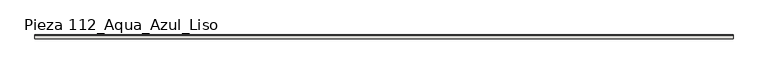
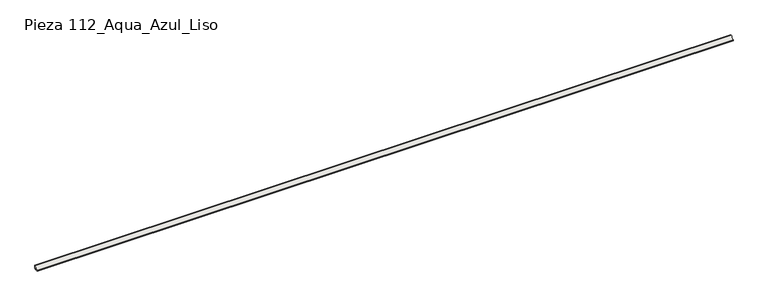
"""IFC4 building model written with IfcOpenShell, lengths in millimetres: slab geometry, ROSA GRES_112 : Pieza 112_Aqua_Azul_Liso."""

from ifc_helpers import new_model, si_unit, point, frame, frame_2d, origin, place, context, project, spatial, polyline, circle_curve, trimmed, segment, composite_curve, outline, extrude, source, transform, mapped, element, save


def pieza_112_aqua_azul_liso_4e644e74(model_context):
    return source(origin(), model_context, "Body", "SweptSolid", [
        extrude(outline(composite_curve([segment(polyline([(0.0, 8.7114978), (-8.7114978, 0.0), (-40.0, 0.0), (-40.0, 9.9734114)]), True, "CONTINUOUS"), segment(trimmed(circle_curve(frame_2d((-39.9955547, 39.9955547)), 30.0221435), [point((-40.0, 9.9734114))], [point((-9.9734114, 40.0))], True, "CARTESIAN"), True, "CONTINUOUS"), segment(polyline([(-9.9734114, 40.0), (0.0, 40.0), (0.0, 8.7114978)]), True, "CONTINUOUS")], self_intersect=False)), frame((0.0, 0.0, 0.0), z_axis=(1.0, 0.0, 0.0), x_axis=(0.0, 1.0, 0.0)), (0.0, 0.0, 1.0), 7500.0),
    ])


if __name__ == "__main__":
    model = new_model("IFC4")
    model_context = context("Model", 3, world=origin())
    ifc_project = project(units=[si_unit("LENGTHUNIT", "METRE", prefix="MILLI")], contexts=[model_context])
    site = spatial("IfcSite", under=ifc_project)
    building = spatial("IfcBuilding", under=site)
    placement = place(None, origin())
    pieza_112_aqua_azul_liso_shape = pieza_112_aqua_azul_liso_4e644e74(model_context)
    element("IfcSlab", 1, ObjectType="ROSA GRES_112 : Pieza 112_Aqua_Azul_Liso", at=placement, inside=building, context=model_context, shape_type="MappedRepresentation", body=[
        mapped(pieza_112_aqua_azul_liso_shape, transform((0.0, 0.0, 0.0), x_axis=(1.0, 0.0, 0.0), y_axis=(0.0, 1.0, 0.0), z_axis=(0.0, 0.0, 1.0))),
    ])
    save(model, "model.ifc")
